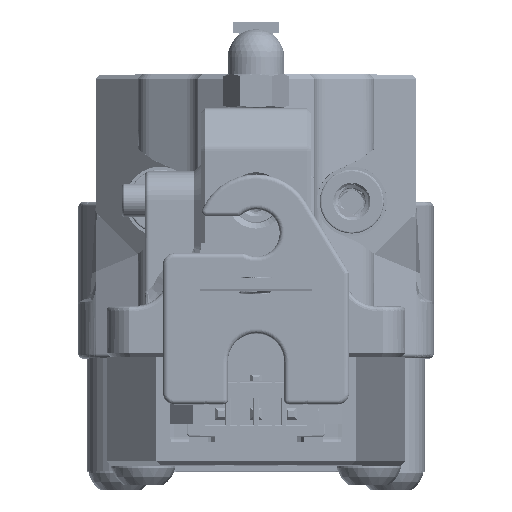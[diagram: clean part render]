
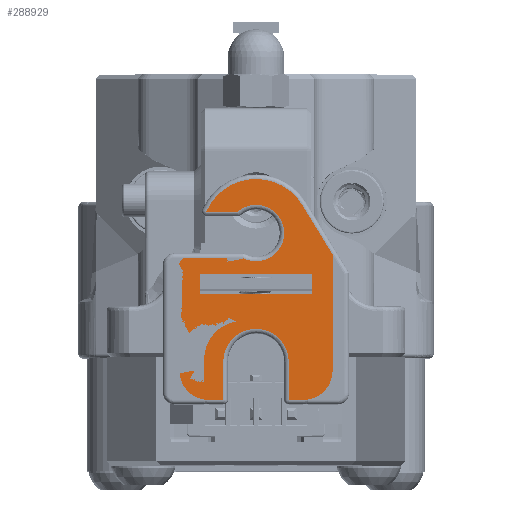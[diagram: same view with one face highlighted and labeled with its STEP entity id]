
A CAD part, top view. The second image highlights one B-rep face of the part: STEP entity #288929.
In plain terms, the highlighted planar face has unit normal (0, 0, 1).
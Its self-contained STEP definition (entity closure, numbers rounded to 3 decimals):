
#6566=FACE_BOUND('',#61238,.T.);
#43475=FACE_OUTER_BOUND('',#61237,.T.);
#61237=EDGE_LOOP('',(#256895,#256896,#256897,#256898,#256899,#256900,#256901,
#256902,#256903,#256904,#256905,#256906,#256907,#256908,#256909));
#61238=EDGE_LOOP('',(#256910,#256911,#256912,#256913));
#79299=LINE('',#1251261,#97399);
#79300=LINE('',#1251272,#97400);
#79310=LINE('',#1251327,#97410);
#79311=LINE('',#1251331,#97411);
#79312=LINE('',#1251335,#97412);
#79313=LINE('',#1251337,#97413);
#79314=LINE('',#1251341,#97414);
#79315=LINE('',#1251345,#97415);
#79316=LINE('',#1251349,#97416);
#79317=LINE('',#1251353,#97417);
#79318=LINE('',#1251355,#97418);
#79319=LINE('',#1251357,#97419);
#79320=LINE('',#1251358,#97420);
#97399=VECTOR('',#373075,10.);
#97400=VECTOR('',#373088,10.);
#97410=VECTOR('',#373136,0.4);
#97411=VECTOR('',#373141,0.4);
#97412=VECTOR('',#373144,10.);
#97413=VECTOR('',#373145,10.);
#97414=VECTOR('',#373148,10.);
#97415=VECTOR('',#373151,10.);
#97416=VECTOR('',#373154,10.);
#97417=VECTOR('',#373157,10.);
#97418=VECTOR('',#373158,10.);
#97419=VECTOR('',#373159,10.);
#97420=VECTOR('',#373160,10.);
#107811=CIRCLE('',#313315,2.9);
#107824=CIRCLE('',#313340,2.6);
#107825=CIRCLE('',#313341,4.8);
#107826=CIRCLE('',#313342,2.5);
#107827=CIRCLE('',#313343,0.6);
#107828=CIRCLE('',#313344,2.6);
#133450=VERTEX_POINT('',#1251255);
#133452=VERTEX_POINT('',#1251259);
#133454=VERTEX_POINT('',#1251264);
#133456=VERTEX_POINT('',#1251270);
#133468=VERTEX_POINT('',#1251326);
#133469=VERTEX_POINT('',#1251330);
#133470=VERTEX_POINT('',#1251332);
#133471=VERTEX_POINT('',#1251334);
#133472=VERTEX_POINT('',#1251336);
#133473=VERTEX_POINT('',#1251338);
#133474=VERTEX_POINT('',#1251340);
#133475=VERTEX_POINT('',#1251342);
#133476=VERTEX_POINT('',#1251344);
#133477=VERTEX_POINT('',#1251346);
#133478=VERTEX_POINT('',#1251348);
#133479=VERTEX_POINT('',#1251351);
#133480=VERTEX_POINT('',#1251352);
#133481=VERTEX_POINT('',#1251354);
#133482=VERTEX_POINT('',#1251356);
#175016=EDGE_CURVE('',#133452,#133450,#79299,.T.);
#175018=EDGE_CURVE('',#133454,#133452,#107811,.T.);
#175021=EDGE_CURVE('',#133456,#133454,#79300,.T.);
#175042=EDGE_CURVE('',#133468,#133450,#79310,.T.);
#175044=EDGE_CURVE('',#133456,#133469,#79311,.T.);
#175045=EDGE_CURVE('',#133470,#133469,#107824,.T.);
#175046=EDGE_CURVE('',#133471,#133470,#79312,.T.);
#175047=EDGE_CURVE('',#133472,#133471,#79313,.T.);
#175048=EDGE_CURVE('',#133473,#133472,#107825,.T.);
#175049=EDGE_CURVE('',#133474,#133473,#79314,.T.);
#175050=EDGE_CURVE('',#133475,#133474,#107826,.T.);
#175051=EDGE_CURVE('',#133476,#133475,#79315,.T.);
#175052=EDGE_CURVE('',#133477,#133476,#107827,.T.);
#175053=EDGE_CURVE('',#133478,#133477,#79316,.T.);
#175054=EDGE_CURVE('',#133468,#133478,#107828,.T.);
#175055=EDGE_CURVE('',#133479,#133480,#79317,.F.);
#175056=EDGE_CURVE('',#133480,#133481,#79318,.F.);
#175057=EDGE_CURVE('',#133481,#133482,#79319,.F.);
#175058=EDGE_CURVE('',#133482,#133479,#79320,.F.);
#256895=ORIENTED_EDGE('',*,*,#175016,.F.);
#256896=ORIENTED_EDGE('',*,*,#175018,.F.);
#256897=ORIENTED_EDGE('',*,*,#175021,.F.);
#256898=ORIENTED_EDGE('',*,*,#175044,.T.);
#256899=ORIENTED_EDGE('',*,*,#175045,.F.);
#256900=ORIENTED_EDGE('',*,*,#175046,.F.);
#256901=ORIENTED_EDGE('',*,*,#175047,.F.);
#256902=ORIENTED_EDGE('',*,*,#175048,.F.);
#256903=ORIENTED_EDGE('',*,*,#175049,.F.);
#256904=ORIENTED_EDGE('',*,*,#175050,.F.);
#256905=ORIENTED_EDGE('',*,*,#175051,.F.);
#256906=ORIENTED_EDGE('',*,*,#175052,.F.);
#256907=ORIENTED_EDGE('',*,*,#175053,.F.);
#256908=ORIENTED_EDGE('',*,*,#175054,.F.);
#256909=ORIENTED_EDGE('',*,*,#175042,.T.);
#256910=ORIENTED_EDGE('',*,*,#175055,.T.);
#256911=ORIENTED_EDGE('',*,*,#175056,.T.);
#256912=ORIENTED_EDGE('',*,*,#175057,.T.);
#256913=ORIENTED_EDGE('',*,*,#175058,.T.);
#273495=PLANE('',#313339);
#288929=ADVANCED_FACE('',(#43475,#6566),#273495,.T.);
#313315=AXIS2_PLACEMENT_3D('',#1251266,#373080,#373081);
#313339=AXIS2_PLACEMENT_3D('',#1251329,#373139,#373140);
#313340=AXIS2_PLACEMENT_3D('',#1251333,#373142,#373143);
#313341=AXIS2_PLACEMENT_3D('',#1251339,#373146,#373147);
#313342=AXIS2_PLACEMENT_3D('',#1251343,#373149,#373150);
#313343=AXIS2_PLACEMENT_3D('',#1251347,#373152,#373153);
#313344=AXIS2_PLACEMENT_3D('',#1251350,#373155,#373156);
#373075=DIRECTION('',(0.,-1.,0.));
#373080=DIRECTION('center_axis',(0.,0.,
1.));
#373081=DIRECTION('ref_axis',(0.,1.,0.));
#373088=DIRECTION('',(0.,1.,0.));
#373136=DIRECTION('',(1.,0.,0.));
#373139=DIRECTION('center_axis',(0.,0.,
1.));
#373140=DIRECTION('ref_axis',(0.,1.,0.));
#373141=DIRECTION('',(1.,0.,0.));
#373142=DIRECTION('center_axis',(0.,0.,
-1.));
#373143=DIRECTION('ref_axis',(0.707,-0.707,0.));
#373144=DIRECTION('',(0.,-1.,0.));
#373145=DIRECTION('',(0.522,-0.853,0.));
#373146=DIRECTION('center_axis',(0.,0.,
-1.));
#373147=DIRECTION('ref_axis',(-0.071,0.997,0.));
#373148=DIRECTION('',(-1.,0.,0.));
#373149=DIRECTION('center_axis',(0.,0.,
1.));
#373150=DIRECTION('ref_axis',(0.994,0.106,0.));
#373151=DIRECTION('',(1.,0.,0.));
#373152=DIRECTION('center_axis',(0.,0.,
-1.));
#373153=DIRECTION('ref_axis',(-0.707,0.707,0.));
#373154=DIRECTION('',(0.,1.,0.));
#373155=DIRECTION('center_axis',(0.,0.,
-1.));
#373156=DIRECTION('ref_axis',(-0.707,-0.707,0.));
#373157=DIRECTION('',(1.,0.,0.));
#373158=DIRECTION('',(0.,-1.,0.));
#373159=DIRECTION('',(-1.,0.,0.));
#373160=DIRECTION('',(0.,1.,0.));
#1251255=CARTESIAN_POINT('',(-0.1,72.211,152.999));
#1251259=CARTESIAN_POINT('',(-0.1,75.611,152.999));
#1251261=CARTESIAN_POINT('',(-0.1,78.061,152.999));
#1251264=CARTESIAN_POINT('',(5.7,75.611,152.999));
#1251266=CARTESIAN_POINT('Origin',(2.8,75.611,152.999));
#1251270=CARTESIAN_POINT('',(5.7,72.211,152.999));
#1251272=CARTESIAN_POINT('',(5.7,75.612,152.999));
#1251326=CARTESIAN_POINT('',(-1.4,72.211,152.999));
#1251327=CARTESIAN_POINT('',(0.722,72.211,152.999));
#1251329=CARTESIAN_POINT('Origin',(2.843,80.511,152.999));
#1251330=CARTESIAN_POINT('',(7.,72.211,152.999));
#1251331=CARTESIAN_POINT('',(0.722,72.211,152.999));
#1251332=CARTESIAN_POINT('',(9.6,74.811,152.999));
#1251333=CARTESIAN_POINT('Origin',(7.,74.811,152.999));
#1251334=CARTESIAN_POINT('',(9.6,85.098,152.999));
#1251335=CARTESIAN_POINT('',(9.6,80.161,152.999));
#1251336=CARTESIAN_POINT('',(6.893,89.518,152.999));
#1251337=CARTESIAN_POINT('',(9.729,84.887,152.999));
#1251338=CARTESIAN_POINT('',(-1.608,88.911,152.999));
#1251339=CARTESIAN_POINT('Origin',(2.8,87.011,152.999));
#1251340=CARTESIAN_POINT('',(1.175,88.911,152.999));
#1251341=CARTESIAN_POINT('',(0.222,88.911,152.999));
#1251342=CARTESIAN_POINT('',(1.613,84.811,152.999));
#1251343=CARTESIAN_POINT('Origin',(2.8,87.011,152.999));
#1251344=CARTESIAN_POINT('',(-3.4,84.811,152.999));
#1251345=CARTESIAN_POINT('',(2.189,84.811,152.999));
#1251346=CARTESIAN_POINT('',(-4.,84.211,152.999));
#1251347=CARTESIAN_POINT('Origin',(-3.4,84.211,152.999));
#1251348=CARTESIAN_POINT('',(-4.,74.811,152.999));
#1251349=CARTESIAN_POINT('',(-4.,82.861,152.999));
#1251350=CARTESIAN_POINT('Origin',(-1.4,74.811,152.999));
#1251351=CARTESIAN_POINT('',(7.8,81.611,152.999));
#1251352=CARTESIAN_POINT('',(-2.2,81.611,152.999));
#1251353=CARTESIAN_POINT('',(5.422,81.611,152.999));
#1251354=CARTESIAN_POINT('',(-2.2,83.411,152.999));
#1251355=CARTESIAN_POINT('',(-2.2,81.161,152.999));
#1251356=CARTESIAN_POINT('',(7.8,83.411,152.999));
#1251357=CARTESIAN_POINT('',(0.222,83.411,152.999));
#1251358=CARTESIAN_POINT('',(7.8,81.861,152.999));
